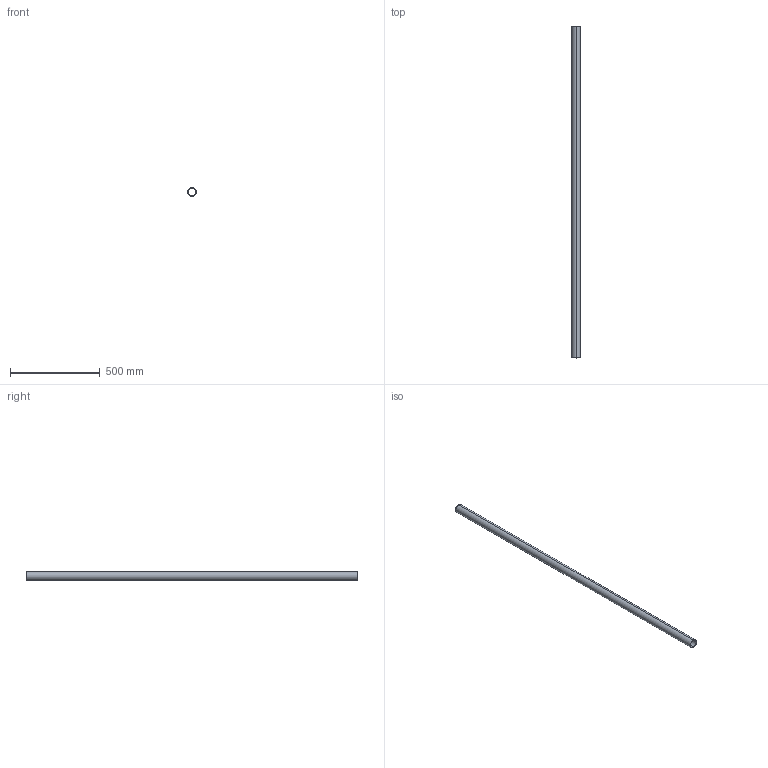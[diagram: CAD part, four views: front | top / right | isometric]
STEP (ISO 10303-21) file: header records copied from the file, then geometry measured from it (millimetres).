
FILE_DESCRIPTION (( 'STEP AP214' ), '1' );
FILE_NAME ('CCJ029-REP.309 - MAIN COURANTE PLATEFORME INFERIEURE A1-B1.STEP', '2024-01-31T09:52:11', ( '' ), ( '' ), 'SwSTEP 2.0', 'SolidWorks 2021', '' );
FILE_SCHEMA (( 'AUTOMOTIVE_DESIGN' ));
Length unit declared in the file: millimetre
Products named in the file (1): CCJ029-REP.309 - MAIN COURANTE PLATEFORME INFERIEURE A1-B1
Bounding box: 48.3 x 1851 x 48.3 mm (x, y, z)
Volume: 665827.6 mm3; surface area: 533381.5 mm2
Topology: 1 solids, 1 shells, 6 faces, 12 edges, 8 vertices
Faces by surface type: cylinder 4, plane 2
Entity records: 202 total; most frequent: DIRECTION 34, CARTESIAN_POINT 27, ORIENTED_EDGE 24, AXIS2_PLACEMENT_3D 15, EDGE_CURVE 12, EDGE_LOOP 8, VERTEX_POINT 8, CIRCLE 8
